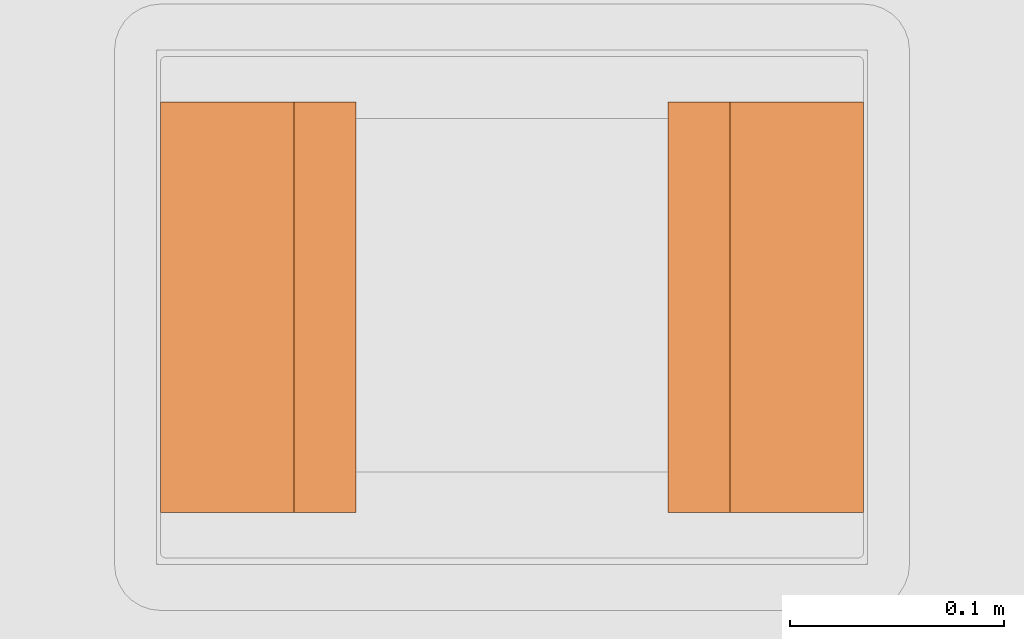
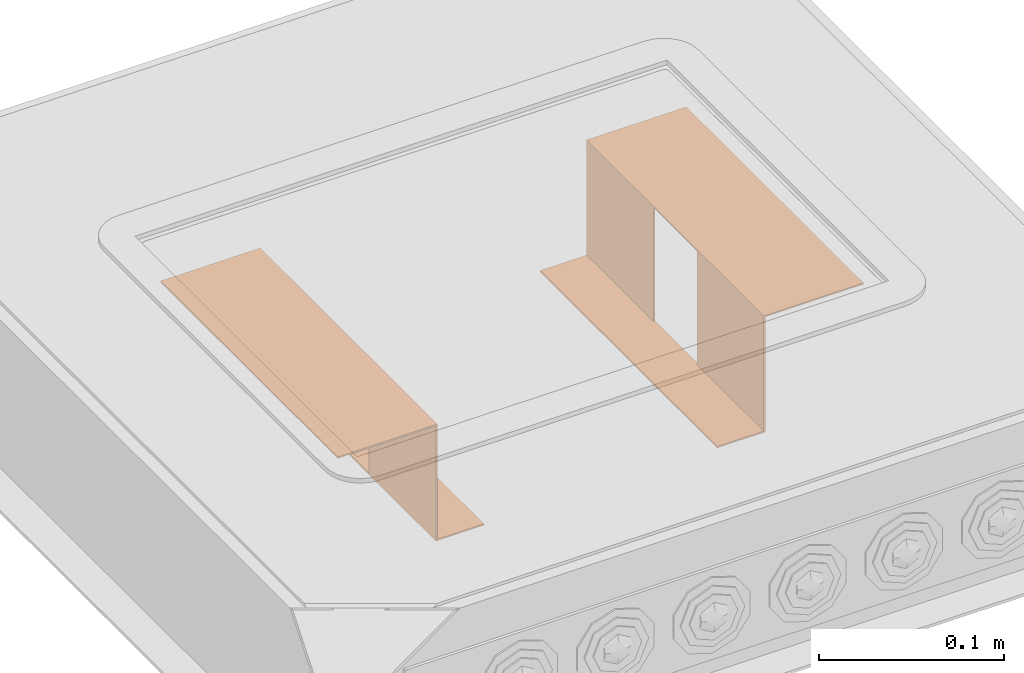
# One storey, part 78 of 87: 2 proxies.
"""IFC2X3 building model written with IfcOpenShell, lengths in millimetres."""

from ifc_helpers import new_model, entity, si_unit, converted_unit, derived_unit, direction, frame, origin, place, context, subcontext, project, spatial, faceted_brep, source, transform, mapped, type_object, type_shapes, element, save


model = new_model("IFC2X3")

# Units and contexts
model_context = context("Model", 3, precision=0.01, world=origin(), true_north=direction((6.12303176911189e-17, 1.0)))
body_context = subcontext(model_context, "Body", "Model", "MODEL_VIEW")
ifc_project = project(units=[si_unit("LENGTHUNIT", "METRE", prefix="MILLI"), si_unit("AREAUNIT", "SQUARE_METRE"), si_unit("VOLUMEUNIT", "CUBIC_METRE"), converted_unit("PLANEANGLEUNIT", "DEGREE", entity("IfcRatioMeasure", 0.0174532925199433), si_unit("PLANEANGLEUNIT", "RADIAN"), dimensions=[0, 0, 0, 0, 0, 0, 0]), si_unit("MASSUNIT", "GRAM", prefix="KILO"), derived_unit("MASSDENSITYUNIT", [(si_unit("MASSUNIT", "GRAM", prefix="KILO"), 1), (si_unit("LENGTHUNIT", "METRE"), -3)]), si_unit("TIMEUNIT", "SECOND"), si_unit("FREQUENCYUNIT", "HERTZ"), si_unit("THERMODYNAMICTEMPERATUREUNIT", "DEGREE_CELSIUS"), derived_unit("THERMALTRANSMITTANCEUNIT", [(si_unit("MASSUNIT", "GRAM", prefix="KILO"), 1), (si_unit("THERMODYNAMICTEMPERATUREUNIT", "KELVIN"), -1), (si_unit("TIMEUNIT", "SECOND"), -3)]), derived_unit("VOLUMETRICFLOWRATEUNIT", [(si_unit("LENGTHUNIT", "METRE"), 3), (si_unit("TIMEUNIT", "SECOND"), -1)]), si_unit("ELECTRICCURRENTUNIT", "AMPERE"), si_unit("ELECTRICVOLTAGEUNIT", "VOLT"), si_unit("POWERUNIT", "WATT"), si_unit("FORCEUNIT", "NEWTON", prefix="KILO"), si_unit("ILLUMINANCEUNIT", "LUX"), si_unit("LUMINOUSFLUXUNIT", "LUMEN"), si_unit("LUMINOUSINTENSITYUNIT", "CANDELA"), derived_unit("USERDEFINED", [(si_unit("MASSUNIT", "GRAM", prefix="KILO"), -1), (si_unit("LENGTHUNIT", "METRE"), -2), (si_unit("TIMEUNIT", "SECOND"), 3), (si_unit("LUMINOUSFLUXUNIT", "LUMEN"), 1)]), derived_unit("LINEARVELOCITYUNIT", [(si_unit("LENGTHUNIT", "METRE"), 1), (si_unit("TIMEUNIT", "SECOND"), -1)]), si_unit("PRESSUREUNIT", "PASCAL"), derived_unit("USERDEFINED", [(si_unit("LENGTHUNIT", "METRE"), -2), (si_unit("MASSUNIT", "GRAM", prefix="KILO"), 1), (si_unit("TIMEUNIT", "SECOND"), -2)])], contexts=[model_context])

# Site, building, storey
site_placement = place(None, origin())
site = spatial("IfcSite", under=ifc_project, at=site_placement, Name="Default", CompositionType="ELEMENT")
building_placement = place(site_placement, origin())
building = spatial("IfcBuilding", under=site, at=building_placement, Name="Наименование здания", CompositionType="ELEMENT")
storey_placement = place(building_placement, origin())
storey = spatial("IfcBuildingStorey", under=building, at=storey_placement, Name="Этаж 01", CompositionType="ELEMENT", Elevation=0.0)

# Proxies
building_element_proxy_type_1 = type_object("IfcBuildingElementProxyType", Name="Суппорт для установки автоматических выключателей в лючок", PredefinedType="NOTDEFINED")
shared_shape_1 = source(origin(), body_context, "Body", "Brep", [
    faceted_brep([(95.7500000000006, 0.0, 76.0), (95.7500000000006, 0.0, 77.0), (95.7500000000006, -62.2000000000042, 77.0), (95.7500000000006, -62.2000000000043, 1.0), (95.7500000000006, -91.2000000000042, 1.0), (95.7500000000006, -91.2000000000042, 0.0), (95.7500000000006, -61.2000000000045, 0.0), (95.7500000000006, -61.2000000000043, 76.0), (-95.7500000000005, 0.0, 76.0), (-95.7500000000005, -61.2000000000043, 76.0), (-95.7500000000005, -61.2000000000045, 0.0), (-95.7500000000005, -91.2000000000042, 0.0), (-95.7500000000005, -91.2000000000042, 1.0), (-95.7500000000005, -62.2000000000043, 1.0), (-95.7500000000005, -62.2000000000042, 77.0), (-95.7500000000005, 0.0, 77.0), (-23.5, -62.2000000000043, 1.0), (-23.5, -62.2000000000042, 76.0), (23.5, -62.2000000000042, 76.0), (23.5, -62.2000000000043, 1.0), (23.5, -61.2000000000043, 1.0), (-23.5, -61.2000000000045, 1.0), (-23.5, -61.2000000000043, 76.0), (23.5, -61.2000000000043, 76.0)], [[[0, 1, 2, 3, 4, 5, 6, 7]], [[8, 9, 10, 11, 12, 13, 14, 15]], [[1, 0, 8, 15]], [[2, 1, 15, 14]], [[3, 2, 14, 13, 16, 17, 18, 19]], [[4, 3, 19, 20, 21, 16, 13, 12]], [[5, 4, 12, 11]], [[6, 5, 11, 10]], [[7, 6, 10, 9, 22, 21, 20, 23]], [[0, 7, 23, 18, 17, 22, 9, 8]], [[22, 17, 16, 21]], [[18, 23, 20, 19]]]),
])
type_shapes(building_element_proxy_type_1, [shared_shape_1])
proxy_1_placement = place(storey_placement, frame((25699.7142671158, 3878.38645848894, -89.5000000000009), z_axis=(0.0, 0.0, 1.0), x_axis=(0.0, 1.0, 0.0)))
element("IfcBuildingElementProxy", 1, at=proxy_1_placement, inside=storey, type_object=building_element_proxy_type_1, Name="Суппорт для установки автоматических выключателей в лючок:Суппорт для установки автоматических выключателей в лючок", ObjectType="Суппорт для установки автоматических выключателей в лючок", context=body_context, shape_type="MappedRepresentation", body=[
    mapped(shared_shape_1, transform((0.0, 0.0, 0.0), scale=1.0)),
])
building_element_proxy_type_2 = type_object("IfcBuildingElementProxyType", Name="Суппорт для установки автоматических выключателей в лючок", PredefinedType="NOTDEFINED")
shared_shape_2 = source(origin(), body_context, "Body", "Brep", [
    faceted_brep([(95.7500000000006, 0.0, 76.0), (95.7500000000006, 61.2000000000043, 76.0), (95.7500000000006, 61.2000000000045, 0.0), (95.7500000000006, 91.2000000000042, 0.0), (95.7500000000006, 91.2000000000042, 1.0), (95.7500000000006, 62.2000000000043, 1.0), (95.7500000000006, 62.2000000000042, 77.0), (95.7500000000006, 0.0, 77.0), (-95.7500000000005, 0.0, 76.0), (-95.7500000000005, 0.0, 77.0), (-95.7500000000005, 62.2000000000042, 77.0), (-95.7500000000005, 62.2000000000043, 1.0), (-95.7500000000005, 91.2000000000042, 1.0), (-95.7500000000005, 91.2000000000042, 0.0), (-95.7500000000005, 61.2000000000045, 0.0), (-95.7500000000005, 61.2000000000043, 76.0), (23.5, 62.2000000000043, 1.0), (23.5, 62.2000000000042, 76.0), (-23.5, 62.2000000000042, 76.0), (-23.5, 62.2000000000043, 1.0), (-23.5, 61.2000000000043, 1.0), (23.5, 61.2000000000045, 1.0), (23.5, 61.2000000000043, 76.0), (-23.5, 61.2000000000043, 76.0)], [[[0, 1, 2, 3, 4, 5, 6, 7]], [[8, 9, 10, 11, 12, 13, 14, 15]], [[7, 9, 8, 0]], [[6, 10, 9, 7]], [[5, 16, 17, 18, 19, 11, 10, 6]], [[4, 12, 11, 19, 20, 21, 16, 5]], [[3, 13, 12, 4]], [[2, 14, 13, 3]], [[1, 22, 21, 20, 23, 15, 14, 2]], [[0, 8, 15, 23, 18, 17, 22, 1]], [[23, 20, 19, 18]], [[17, 16, 21, 22]]]),
])
type_shapes(building_element_proxy_type_2, [shared_shape_2])
proxy_2_placement = place(storey_placement, frame((26027.7239454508, 3878.38645848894, -89.5000000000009), z_axis=(0.0, 0.0, 1.0), x_axis=(0.0, 1.0, 0.0)))
element("IfcBuildingElementProxy", 2, at=proxy_2_placement, inside=storey, type_object=building_element_proxy_type_2, Name="Суппорт для установки автоматических выключателей в лючок:Суппорт для установки автоматических выключателей в лючок", ObjectType="Суппорт для установки автоматических выключателей в лючок", context=body_context, shape_type="MappedRepresentation", body=[
    mapped(shared_shape_2, transform((0.0, 0.0, 0.0), scale=1.0)),
])

save(model, "model.ifc")
